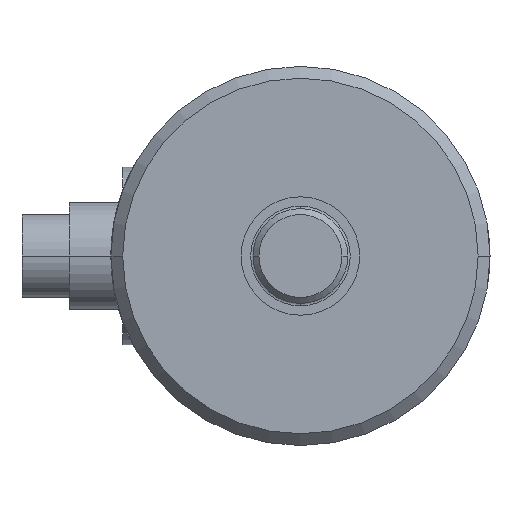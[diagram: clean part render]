
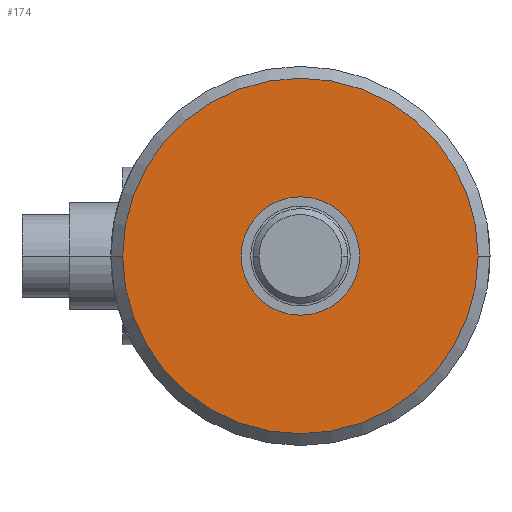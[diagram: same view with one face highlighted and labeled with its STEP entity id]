
A CAD part, left-side view. The second image highlights one B-rep face of the part: STEP entity #174.
In plain terms, the highlighted planar face has unit normal (-1, 0, 0).
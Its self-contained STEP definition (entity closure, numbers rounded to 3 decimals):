
#174=ADVANCED_FACE('',(#360,#361),#362,.T.);
#360=FACE_OUTER_BOUND('',#941,.T.);
#361=FACE_BOUND('',#942,.T.);
#362=PLANE('',#943);
#941=EDGE_LOOP('',(#1350,#1351));
#942=EDGE_LOOP('',(#1352,#1353));
#943=AXIS2_PLACEMENT_3D('',#1354,#1355,#1356);
#1350=ORIENTED_EDGE('',*,*,#1530,.F.);
#1351=ORIENTED_EDGE('',*,*,#1635,.F.);
#1352=ORIENTED_EDGE('',*,*,#1536,.T.);
#1353=ORIENTED_EDGE('',*,*,#1633,.T.);
#1354=CARTESIAN_POINT('',(-24.0,10.,0.0));
#1355=DIRECTION('',(-1.0,0.0,0.0));
#1356=DIRECTION('',(0.0,0.0,1.0));
#1530=EDGE_CURVE('',#1757,#1759,#1760,.T.);
#1536=EDGE_CURVE('',#1764,#1768,#1770,.T.);
#1633=EDGE_CURVE('',#1768,#1764,#1902,.T.);
#1635=EDGE_CURVE('',#1759,#1757,#1904,.T.);
#1757=VERTEX_POINT('',#2190);
#1759=VERTEX_POINT('',#2193);
#1760=CIRCLE('',#2194,15.);
#1764=VERTEX_POINT('',#2199);
#1768=VERTEX_POINT('',#2204);
#1770=CIRCLE('',#2207,5.);
#1902=CIRCLE('',#2462,5.);
#1904=CIRCLE('',#2464,15.);
#2190=CARTESIAN_POINT('',(-24.0,15.,0.0));
#2193=CARTESIAN_POINT('',(-24.0,-15.,0.));
#2194=AXIS2_PLACEMENT_3D('',#2563,#2564,#2565);
#2199=CARTESIAN_POINT('',(-24.0,5.,0.0));
#2204=CARTESIAN_POINT('',(-24.0,-5.,0.));
#2207=AXIS2_PLACEMENT_3D('',#2572,#2573,#2574);
#2462=AXIS2_PLACEMENT_3D('',#2708,#2709,#2710);
#2464=AXIS2_PLACEMENT_3D('',#2711,#2712,#2713);
#2563=CARTESIAN_POINT('',(-24.0,0.0,0.0));
#2564=DIRECTION('',(1.0,0.0,0.0));
#2565=DIRECTION('',(0.0,1.0,0.0));
#2572=CARTESIAN_POINT('',(-24.0,0.0,0.0));
#2573=DIRECTION('',(1.0,0.0,0.0));
#2574=DIRECTION('',(0.0,1.0,0.0));
#2708=CARTESIAN_POINT('',(-24.0,0.0,0.0));
#2709=DIRECTION('',(1.0,0.0,0.0));
#2710=DIRECTION('',(0.0,1.0,0.0));
#2711=CARTESIAN_POINT('',(-24.0,0.0,0.0));
#2712=DIRECTION('',(1.0,0.0,0.0));
#2713=DIRECTION('',(0.0,1.0,0.0));
